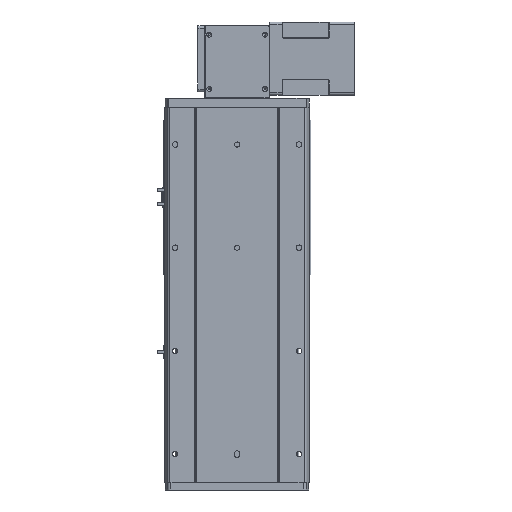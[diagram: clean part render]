
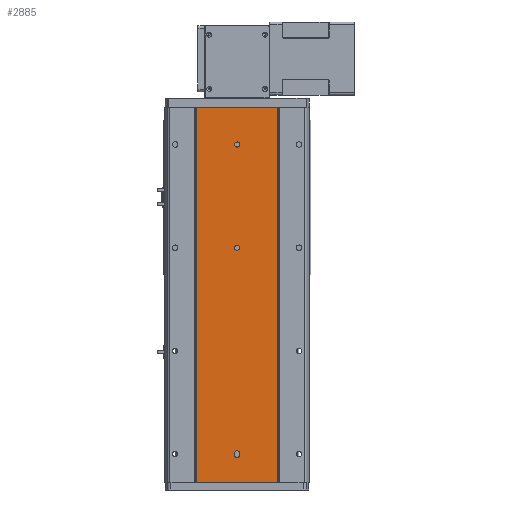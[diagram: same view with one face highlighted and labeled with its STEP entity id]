
A CAD part, front view. The second image highlights one B-rep face of the part: STEP entity #2885.
In plain terms, the highlighted planar face has unit normal (0, -1, 0).
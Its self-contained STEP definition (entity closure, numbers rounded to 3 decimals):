
#813 = FACE_BOUND ( 'NONE', #23856, .T. ) ;
#842 = VECTOR ( 'NONE', #22811, 1000. ) ;
#1049 = DIRECTION ( 'NONE',  ( 0., 1., 0. ) ) ;
#1293 = ORIENTED_EDGE ( 'NONE', *, *, #11535, .F. ) ;
#1305 = ORIENTED_EDGE ( 'NONE', *, *, #3983, .T. ) ;
#1825 = CIRCLE ( 'NONE', #14898, 5. ) ;
#2087 = CARTESIAN_POINT ( 'NONE',  ( -79., 1.5, -727. ) ) ;
#2166 = VERTEX_POINT ( 'NONE', #23886 ) ;
#2237 = CARTESIAN_POINT ( 'NONE',  ( 79., 1.5, -727. ) ) ;
#2605 = EDGE_CURVE ( 'NONE', #10351, #24236, #24048, .T. ) ;
#2885 = ADVANCED_FACE ( 'NONE', ( #4678, #4344, #813, #22594 ), #11003, .T. ) ;
#3223 = ORIENTED_EDGE ( 'NONE', *, *, #24467, .F. ) ;
#3245 = DIRECTION ( 'NONE',  ( 1., 0., 0. ) ) ;
#3322 = EDGE_CURVE ( 'NONE', #15220, #7863, #7869, .T. ) ;
#3812 = VECTOR ( 'NONE', #9702, 1000. ) ;
#3983 = EDGE_CURVE ( 'NONE', #19125, #20292, #17926, .T. ) ;
#4226 = LINE ( 'NONE', #11659, #11946 ) ;
#4299 = ORIENTED_EDGE ( 'NONE', *, *, #18828, .T. ) ;
#4323 = DIRECTION ( 'NONE',  ( 0., -1., 0. ) ) ;
#4344 = FACE_OUTER_BOUND ( 'NONE', #12889, .T. ) ;
#4678 = FACE_BOUND ( 'NONE', #26949, .T. ) ;
#4765 = AXIS2_PLACEMENT_3D ( 'NONE', #4950, #9489, #24971 ) ;
#4950 = CARTESIAN_POINT ( 'NONE',  ( 0., 1.5, -673. ) ) ;
#5350 = CARTESIAN_POINT ( 'NONE',  ( 79., 1.5, -727. ) ) ;
#5953 = DIRECTION ( 'NONE',  ( 0., 1., 0. ) ) ;
#7207 = CARTESIAN_POINT ( 'NONE',  ( 79., 1.5, 0. ) ) ;
#7363 = CARTESIAN_POINT ( 'NONE',  ( 0., 1.5, -71.5 ) ) ;
#7786 = VECTOR ( 'NONE', #23499, 1000. ) ;
#7806 = EDGE_CURVE ( 'NONE', #24236, #2166, #21520, .T. ) ;
#7863 = VERTEX_POINT ( 'NONE', #24516 ) ;
#7869 = CIRCLE ( 'NONE', #21736, 5. ) ;
#8156 = CARTESIAN_POINT ( 'NONE',  ( 0., 1.5, -271.5 ) ) ;
#8356 = VERTEX_POINT ( 'NONE', #7207 ) ;
#8417 = LINE ( 'NONE', #2237, #3812 ) ;
#8608 = ORIENTED_EDGE ( 'NONE', *, *, #26604, .T. ) ;
#8741 = ORIENTED_EDGE ( 'NONE', *, *, #7806, .T. ) ;
#8919 = ORIENTED_EDGE ( 'NONE', *, *, #3322, .T. ) ;
#9253 = DIRECTION ( 'NONE',  ( 0., 0., 1. ) ) ;
#9489 = DIRECTION ( 'NONE',  ( 0., 1., 0. ) ) ;
#9497 = VERTEX_POINT ( 'NONE', #20859 ) ;
#9702 = DIRECTION ( 'NONE',  ( 0., 0., 1. ) ) ;
#10067 = LINE ( 'NONE', #18378, #842 ) ;
#10260 = CARTESIAN_POINT ( 'NONE',  ( 0., 1.5, -276.5 ) ) ;
#10351 = VERTEX_POINT ( 'NONE', #15617 ) ;
#10898 = CIRCLE ( 'NONE', #18126, 5. ) ;
#11003 = PLANE ( 'NONE',  #18183 ) ;
#11535 = EDGE_CURVE ( 'NONE', #19125, #24480, #4226, .T. ) ;
#11659 = CARTESIAN_POINT ( 'NONE',  ( -79., 1.5, -727. ) ) ;
#11946 = VECTOR ( 'NONE', #9253, 1000. ) ;
#12889 = EDGE_LOOP ( 'NONE', ( #3223, #1293, #1305, #24734 ) ) ;
#13065 = VERTEX_POINT ( 'NONE', #22909 ) ;
#13073 = LINE ( 'NONE', #21660, #19353 ) ;
#13252 = VERTEX_POINT ( 'NONE', #10260 ) ;
#13951 = EDGE_CURVE ( 'NONE', #2166, #17077, #24067, .T. ) ;
#14013 = ORIENTED_EDGE ( 'NONE', *, *, #18943, .T. ) ;
#14500 = DIRECTION ( 'NONE',  ( 0., 1., 0. ) ) ;
#14636 = DIRECTION ( 'NONE',  ( 1., 0., 0. ) ) ;
#14748 = CARTESIAN_POINT ( 'NONE',  ( 0., 1.5, -66.5 ) ) ;
#14794 = DIRECTION ( 'NONE',  ( 1., 0., 0. ) ) ;
#14898 = AXIS2_PLACEMENT_3D ( 'NONE', #8156, #16909, #14794 ) ;
#15054 = ORIENTED_EDGE ( 'NONE', *, *, #2605, .T. ) ;
#15220 = VERTEX_POINT ( 'NONE', #14748 ) ;
#15563 = VECTOR ( 'NONE', #15856, 1000. ) ;
#15617 = CARTESIAN_POINT ( 'NONE',  ( -5., 1.5, -670. ) ) ;
#15856 = DIRECTION ( 'NONE',  ( 0., 0., -1. ) ) ;
#16513 = EDGE_CURVE ( 'NONE', #20292, #8356, #8417, .T. ) ;
#16533 = CARTESIAN_POINT ( 'NONE',  ( 0., 1.5, -71.5 ) ) ;
#16568 = CARTESIAN_POINT ( 'NONE',  ( 5., 1.5, -670. ) ) ;
#16763 = ORIENTED_EDGE ( 'NONE', *, *, #13951, .T. ) ;
#16909 = DIRECTION ( 'NONE',  ( 0., 1., 0. ) ) ;
#16965 = CARTESIAN_POINT ( 'NONE',  ( 0., 1.5, -670. ) ) ;
#17077 = VERTEX_POINT ( 'NONE', #22522 ) ;
#17298 = CIRCLE ( 'NONE', #18813, 5. ) ;
#17746 = DIRECTION ( 'NONE',  ( 1., 0., 0. ) ) ;
#17926 = LINE ( 'NONE', #19472, #7786 ) ;
#18126 = AXIS2_PLACEMENT_3D ( 'NONE', #16533, #14500, #23405 ) ;
#18183 = AXIS2_PLACEMENT_3D ( 'NONE', #2087, #4323, #17746 ) ;
#18378 = CARTESIAN_POINT ( 'NONE',  ( -79., 1.5, 0. ) ) ;
#18725 = CARTESIAN_POINT ( 'NONE',  ( 0., 1.5, -271.5 ) ) ;
#18813 = AXIS2_PLACEMENT_3D ( 'NONE', #18725, #1049, #3245 ) ;
#18828 = EDGE_CURVE ( 'NONE', #13252, #13065, #17298, .T. ) ;
#18943 = EDGE_CURVE ( 'NONE', #17077, #9497, #26748, .T. ) ;
#19125 = VERTEX_POINT ( 'NONE', #20519 ) ;
#19155 = DIRECTION ( 'NONE',  ( 0., 1., 0. ) ) ;
#19353 = VECTOR ( 'NONE', #26624, 1000. ) ;
#19472 = CARTESIAN_POINT ( 'NONE',  ( -79., 1.5, -727. ) ) ;
#19494 = CARTESIAN_POINT ( 'NONE',  ( 0., 1.5, -673. ) ) ;
#19973 = EDGE_CURVE ( 'NONE', #13065, #13252, #1825, .T. ) ;
#20175 = CARTESIAN_POINT ( 'NONE',  ( 5., 1.5, -727. ) ) ;
#20292 = VERTEX_POINT ( 'NONE', #5350 ) ;
#20519 = CARTESIAN_POINT ( 'NONE',  ( -79., 1.5, -727. ) ) ;
#20859 = CARTESIAN_POINT ( 'NONE',  ( -5., 1.5, -673. ) ) ;
#20913 = CARTESIAN_POINT ( 'NONE',  ( -79., 1.5, 0. ) ) ;
#21520 = LINE ( 'NONE', #20175, #15563 ) ;
#21660 = CARTESIAN_POINT ( 'NONE',  ( -5., 1.5, -727. ) ) ;
#21736 = AXIS2_PLACEMENT_3D ( 'NONE', #7363, #27692, #25384 ) ;
#22183 = ORIENTED_EDGE ( 'NONE', *, *, #26346, .T. ) ;
#22522 = CARTESIAN_POINT ( 'NONE',  ( 0., 1.5, -678. ) ) ;
#22594 = FACE_BOUND ( 'NONE', #25355, .T. ) ;
#22811 = DIRECTION ( 'NONE',  ( 1., 0., 0. ) ) ;
#22909 = CARTESIAN_POINT ( 'NONE',  ( 0., 1.5, -266.5 ) ) ;
#23405 = DIRECTION ( 'NONE',  ( 1., 0., 0. ) ) ;
#23499 = DIRECTION ( 'NONE',  ( 1., 0., 0. ) ) ;
#23856 = EDGE_LOOP ( 'NONE', ( #4299, #28316 ) ) ;
#23886 = CARTESIAN_POINT ( 'NONE',  ( 5., 1.5, -673. ) ) ;
#24048 = CIRCLE ( 'NONE', #24379, 5. ) ;
#24067 = CIRCLE ( 'NONE', #4765, 5. ) ;
#24236 = VERTEX_POINT ( 'NONE', #16568 ) ;
#24379 = AXIS2_PLACEMENT_3D ( 'NONE', #16965, #19155, #14636 ) ;
#24467 = EDGE_CURVE ( 'NONE', #24480, #8356, #10067, .T. ) ;
#24480 = VERTEX_POINT ( 'NONE', #20913 ) ;
#24516 = CARTESIAN_POINT ( 'NONE',  ( 0., 1.5, -76.5 ) ) ;
#24734 = ORIENTED_EDGE ( 'NONE', *, *, #16513, .T. ) ;
#24971 = DIRECTION ( 'NONE',  ( 1., 0., 0. ) ) ;
#25355 = EDGE_LOOP ( 'NONE', ( #22183, #15054, #8741, #16763, #14013 ) ) ;
#25384 = DIRECTION ( 'NONE',  ( 1., 0., 0. ) ) ;
#26327 = DIRECTION ( 'NONE',  ( 1., 0., 0. ) ) ;
#26346 = EDGE_CURVE ( 'NONE', #9497, #10351, #13073, .T. ) ;
#26604 = EDGE_CURVE ( 'NONE', #7863, #15220, #10898, .T. ) ;
#26624 = DIRECTION ( 'NONE',  ( 0., 0., 1. ) ) ;
#26748 = CIRCLE ( 'NONE', #27772, 5. ) ;
#26949 = EDGE_LOOP ( 'NONE', ( #8608, #8919 ) ) ;
#27692 = DIRECTION ( 'NONE',  ( 0., 1., 0. ) ) ;
#27772 = AXIS2_PLACEMENT_3D ( 'NONE', #19494, #5953, #26327 ) ;
#28316 = ORIENTED_EDGE ( 'NONE', *, *, #19973, .T. ) ;
